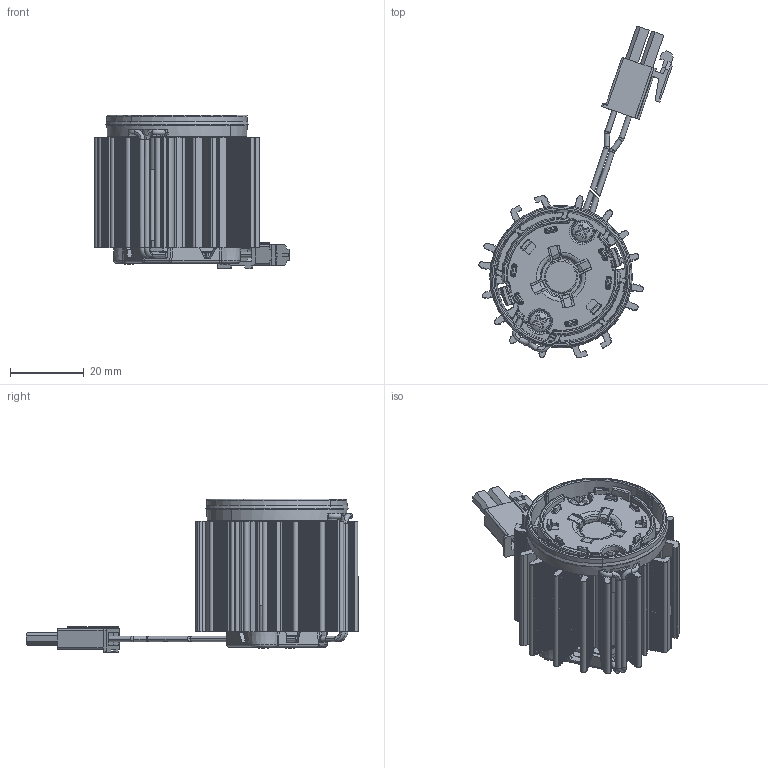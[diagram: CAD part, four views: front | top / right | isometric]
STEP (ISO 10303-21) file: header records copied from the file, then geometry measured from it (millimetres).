
FILE_DESCRIPTION(('Creo Elements/Direct Modeling STEP Export'),'2;1');
FILE_NAME('Engine_7.3.stp','2023-08-21T10:35:55',(''),(''),'Creo Elements/Direct Modeling STEP processor for AP214 (Solid Model)','Creo Elements/Direct Modeling 20.0E 23-Apr-2019 (C) Parametric Technology GmbH','');
FILE_SCHEMA(('AUTOMOTIVE_DESIGN { 1 0 10303 214 1 1 1 1 }'));
Length unit declared in the file: millimetre
Products named in the file (46): cavo.1.2; cavo_conn.1; cavo_conn.1.1; cavo_conn.1.2; cop_maschio.1.1; CUT-EXTRUDE1_1_.PRT; CUT-EXTRUDE1_2_.PRT; CUT-EXTRUDE1_3_.PRT; CUT-EXTRUDE1_4_.PRT; V8_BXRE_BASE_ROUND_CENTER.PRT.1; CUT-EXTRUDE1_5_.PRT; V8_BXRE_PH.PRT; CUT-EXTRUDE1_6_.PRT; dissipatore_D45_H30; CUT-EXTRUDE1_7_.PRT; CUT-EXTRUDE1_8_.PRT; V8_BXRE_RD.PRT; ETICHETTA; V8_BXRE_SM.PRT; HOLDER_12.5x12.5; thermal-pad; vite_holder_a.1; vite_holder_b.1; cavo.1.1; Engine_7.3.stp
Assembly tree (45 placements, depth 3):
  Engine_7.3.stp
    cavo.1.1
      cavo.1.1
    vite_holder_b.1
    vite_holder_a.1
    thermal-pad
    HOLDER_12.5x12.5
      HOLDER_12.5x12.5
    V8_BXRE_SM.PRT
      V8_BXRE_SM.PRT
    ETICHETTA
      ETICHETTA
    V8_BXRE_RD.PRT
      V8_BXRE_RD.PRT
    CUT-EXTRUDE1_8_.PRT
      CUT-EXTRUDE1_8_.PRT
    CUT-EXTRUDE1_7_.PRT
      CUT-EXTRUDE1_7_.PRT
    dissipatore_D45_H30
      dissipatore_D45_H30
    CUT-EXTRUDE1_6_.PRT
      CUT-EXTRUDE1_6_.PRT
    V8_BXRE_PH.PRT
      V8_BXRE_PH.PRT
    CUT-EXTRUDE1_5_.PRT
      CUT-EXTRUDE1_5_.PRT
    V8_BXRE_BASE_ROUND_CENTER.PRT.1
      V8_BXRE_BASE_ROUND_CENTER.PRT.1
    CUT-EXTRUDE1_4_.PRT
      CUT-EXTRUDE1_4_.PRT
    CUT-EXTRUDE1_3_.PRT
      CUT-EXTRUDE1_3_.PRT
    CUT-EXTRUDE1_2_.PRT
      CUT-EXTRUDE1_2_.PRT
    CUT-EXTRUDE1_1_.PRT
      CUT-EXTRUDE1_1_.PRT
    cop_maschio.1.1
      cop_maschio.1.1
    cavo_conn.1.2
      cavo_conn.1.2
    cavo_conn.1.1
      cavo_conn.1.1
    cavo_conn.1
      cavo_conn.1
    cavo.1.2
      cavo.1.2
Bounding box: 52.61 x 89.86 x 41.67 mm (x, y, z)
Volume: 27839.8 mm3; surface area: 27841.5 mm2
Topology: 21 solids, 21 shells, 3013 faces, 8510 edges, 5484 vertices
Faces by surface type: plane 1683, cylinder 620, bspline 352, torus 160, cone 140, sphere 58
Entity records: 118145 total; most frequent: CARTESIAN_POINT 42816, ORIENTED_EDGE 16922, DIRECTION 13152, EDGE_CURVE 8461, VERTEX_POINT 5484, VECTOR 4992, LINE 4992, AXIS2_PLACEMENT_3D 4080
